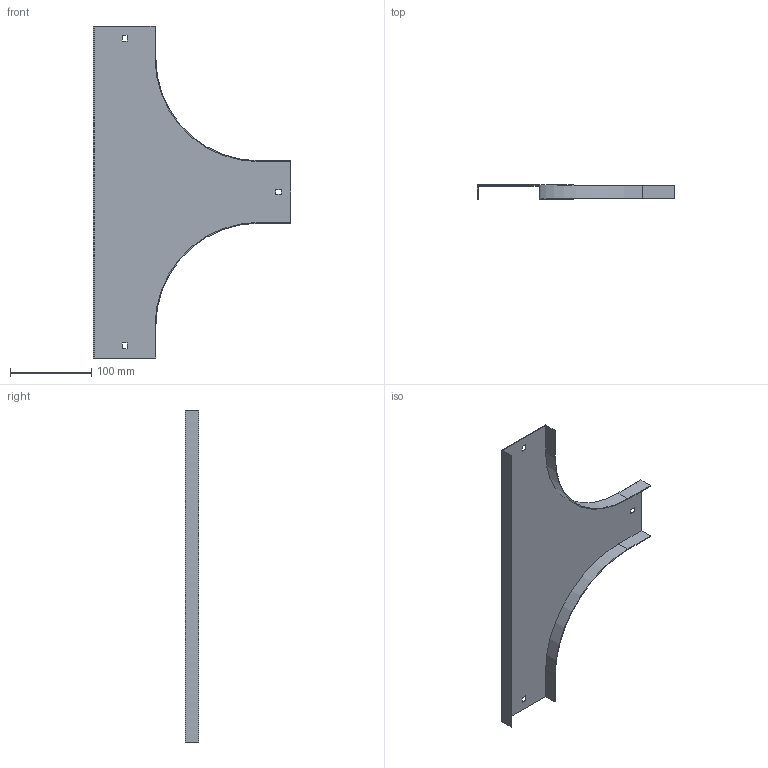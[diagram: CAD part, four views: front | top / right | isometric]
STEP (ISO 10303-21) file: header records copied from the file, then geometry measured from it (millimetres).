
FILE_DESCRIPTION (( 'STEP AP214' ), '1' );
FILE_NAME ('OT_075.step', '2025-07-16T09:17:51', ( '' ), ( '' ), 'SwSTEP 2.0', 'SolidWorks 2023', '' );
FILE_SCHEMA (( 'AUTOMOTIVE_DESIGN' ));
Length unit declared in the file: millimetre
Products named in the file (1): OT_075
Bounding box: 243 x 17 x 409 mm (x, y, z)
Volume: 66425.6 mm3; surface area: 134221.1 mm2
Topology: 1 solids, 1 shells, 34 faces, 96 edges, 64 vertices
Faces by surface type: plane 30, cylinder 4
Entity records: 1123 total; most frequent: CARTESIAN_POINT 195, ORIENTED_EDGE 192, DIRECTION 174, EDGE_CURVE 96, LINE 88, VECTOR 88, VERTEX_POINT 64, AXIS2_PLACEMENT_3D 43
